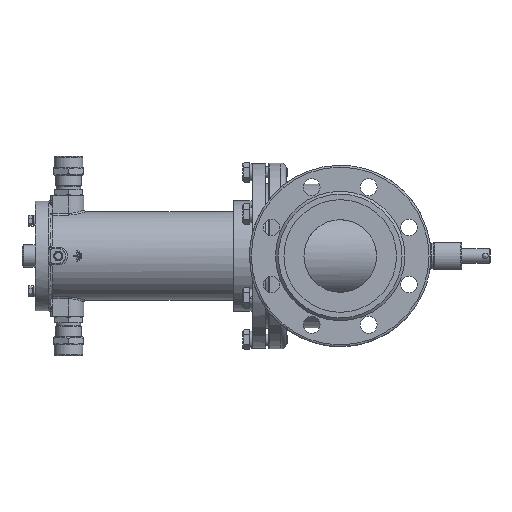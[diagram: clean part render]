
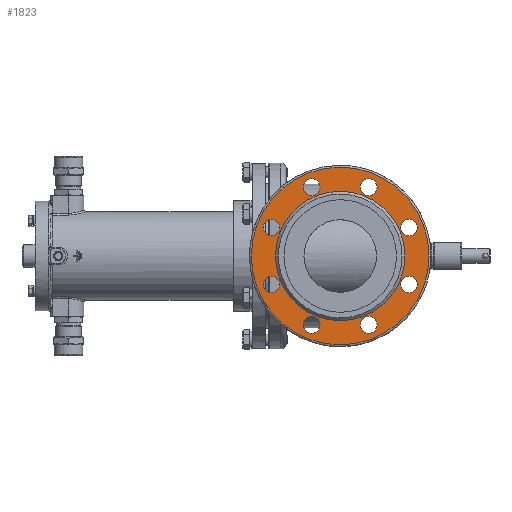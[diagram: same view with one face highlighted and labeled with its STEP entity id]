
A CAD part, left-side view. The second image highlights one B-rep face of the part: STEP entity #1823.
In plain terms, the highlighted planar face has unit normal (-1, 0, 0).
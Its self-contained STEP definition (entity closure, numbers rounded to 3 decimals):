
#1823=ADVANCED_FACE('',(#20564,#20566,#20568,#20570,#20572,#20574,#20576,#20578,
#20580,#20582),#20584,.T.);
#20564=FACE_BOUND('',#20565,.T.);
#20565=EDGE_LOOP('',(#31326));
#20566=FACE_BOUND('',#20567,.T.);
#20567=EDGE_LOOP('',(#31327));
#20568=FACE_BOUND('',#20569,.T.);
#20569=EDGE_LOOP('',(#31328));
#20570=FACE_BOUND('',#20571,.T.);
#20571=EDGE_LOOP('',(#31329));
#20572=FACE_BOUND('',#20573,.T.);
#20573=EDGE_LOOP('',(#31330));
#20574=FACE_BOUND('',#20575,.T.);
#20575=EDGE_LOOP('',(#31331));
#20576=FACE_BOUND('',#20577,.T.);
#20577=EDGE_LOOP('',(#31332));
#20578=FACE_BOUND('',#20579,.T.);
#20579=EDGE_LOOP('',(#31333));
#20580=FACE_BOUND('',#20581,.T.);
#20581=EDGE_LOOP('',(#31334));
#20582=FACE_OUTER_BOUND('',#20583,.T.);
#20583=EDGE_LOOP('',(#31335));
#20584=PLANE('',#20585);
#20585=AXIS2_PLACEMENT_3D('',#20586,#20587,#20588);
#20586=CARTESIAN_POINT('',(-151.,0.,0.));
#20587=DIRECTION('',(-1.,0.,0.));
#20588=DIRECTION('',(0.,1.,0.));
#31326=ORIENTED_EDGE('',*,*,#38761,.T.);
#31327=ORIENTED_EDGE('',*,*,#38759,.T.);
#31328=ORIENTED_EDGE('',*,*,#38757,.T.);
#31329=ORIENTED_EDGE('',*,*,#38755,.T.);
#31330=ORIENTED_EDGE('',*,*,#38753,.T.);
#31331=ORIENTED_EDGE('',*,*,#38751,.T.);
#31332=ORIENTED_EDGE('',*,*,#38749,.T.);
#31333=ORIENTED_EDGE('',*,*,#38747,.T.);
#31334=ORIENTED_EDGE('',*,*,#38786,.F.);
#31335=ORIENTED_EDGE('',*,*,#38787,.T.);
#38747=EDGE_CURVE('',#46730,#46730,#46732,.T.);
#38749=EDGE_CURVE('',#46733,#46733,#46735,.T.);
#38751=EDGE_CURVE('',#46736,#46736,#46738,.T.);
#38753=EDGE_CURVE('',#46739,#46739,#46741,.T.);
#38755=EDGE_CURVE('',#46742,#46742,#46744,.T.);
#38757=EDGE_CURVE('',#46745,#46745,#46747,.T.);
#38759=EDGE_CURVE('',#46748,#46748,#46750,.T.);
#38761=EDGE_CURVE('',#46751,#46751,#46753,.T.);
#38786=EDGE_CURVE('',#46792,#46792,#46793,.T.);
#38787=EDGE_CURVE('',#46794,#46794,#46795,.T.);
#46730=VERTEX_POINT('',#75190);
#46732=CIRCLE('',#75194,9.);
#46733=VERTEX_POINT('',#75198);
#46735=CIRCLE('',#75202,9.);
#46736=VERTEX_POINT('',#75206);
#46738=CIRCLE('',#75210,9.);
#46739=VERTEX_POINT('',#75214);
#46741=CIRCLE('',#75218,9.);
#46742=VERTEX_POINT('',#75222);
#46744=CIRCLE('',#75226,9.);
#46745=VERTEX_POINT('',#75230);
#46747=CIRCLE('',#75234,9.);
#46748=VERTEX_POINT('',#75238);
#46750=CIRCLE('',#75242,9.);
#46751=VERTEX_POINT('',#75246);
#46753=CIRCLE('',#75250,9.);
#46792=VERTEX_POINT('',#75555);
#46793=CIRCLE('',#75556,69.5);
#46794=VERTEX_POINT('',#75560);
#46795=CIRCLE('',#75561,95.5);
#75190=CARTESIAN_POINT('',(-151.,30.615,64.91));
#75194=AXIS2_PLACEMENT_3D('',#75195,#75196,#75197);
#75195=CARTESIAN_POINT('',(-151.,30.615,73.91));
#75196=DIRECTION('',(1.,0.,0.));
#75197=DIRECTION('',(0.,-1.,0.));
#75198=CARTESIAN_POINT('',(-151.,30.615,-82.91));
#75202=AXIS2_PLACEMENT_3D('',#75203,#75204,#75205);
#75203=CARTESIAN_POINT('',(-151.,30.615,-73.91));
#75204=DIRECTION('',(1.,0.,0.));
#75205=DIRECTION('',(0.,-1.,0.));
#75206=CARTESIAN_POINT('',(-151.,73.91,21.615));
#75210=AXIS2_PLACEMENT_3D('',#75211,#75212,#75213);
#75211=CARTESIAN_POINT('',(-151.,73.91,30.615));
#75212=DIRECTION('',(1.,0.,0.));
#75213=DIRECTION('',(0.,-1.,0.));
#75214=CARTESIAN_POINT('',(-151.,-30.615,-82.91));
#75218=AXIS2_PLACEMENT_3D('',#75219,#75220,#75221);
#75219=CARTESIAN_POINT('',(-151.,-30.615,-73.91));
#75220=DIRECTION('',(1.,0.,0.));
#75221=DIRECTION('',(0.,-1.,0.));
#75222=CARTESIAN_POINT('',(-151.,-73.91,21.615));
#75226=AXIS2_PLACEMENT_3D('',#75227,#75228,#75229);
#75227=CARTESIAN_POINT('',(-151.,-73.91,30.615));
#75228=DIRECTION('',(1.,0.,0.));
#75229=DIRECTION('',(0.,-1.,0.));
#75230=CARTESIAN_POINT('',(-151.,-30.615,64.91));
#75234=AXIS2_PLACEMENT_3D('',#75235,#75236,#75237);
#75235=CARTESIAN_POINT('',(-151.,-30.615,73.91));
#75236=DIRECTION('',(1.,0.,0.));
#75237=DIRECTION('',(0.,-1.,0.));
#75238=CARTESIAN_POINT('',(-151.,73.91,-39.615));
#75242=AXIS2_PLACEMENT_3D('',#75243,#75244,#75245);
#75243=CARTESIAN_POINT('',(-151.,73.91,-30.615));
#75244=DIRECTION('',(1.,0.,0.));
#75245=DIRECTION('',(0.,-1.,0.));
#75246=CARTESIAN_POINT('',(-151.,-73.91,-39.615));
#75250=AXIS2_PLACEMENT_3D('',#75251,#75252,#75253);
#75251=CARTESIAN_POINT('',(-151.,-73.91,-30.615));
#75252=DIRECTION('',(1.,0.,0.));
#75253=DIRECTION('',(0.,-1.,0.));
#75555=CARTESIAN_POINT('',(-151.,-69.5,0.));
#75556=AXIS2_PLACEMENT_3D('',#75557,#75558,#75559);
#75557=CARTESIAN_POINT('',(-151.,0.,0.));
#75558=DIRECTION('',(-1.,0.,0.));
#75559=DIRECTION('',(0.,1.,0.));
#75560=CARTESIAN_POINT('',(-151.,-95.5,0.));
#75561=AXIS2_PLACEMENT_3D('',#75562,#75563,#75564);
#75562=CARTESIAN_POINT('',(-151.,0.,0.));
#75563=DIRECTION('',(-1.,0.,0.));
#75564=DIRECTION('',(0.,1.,0.));
